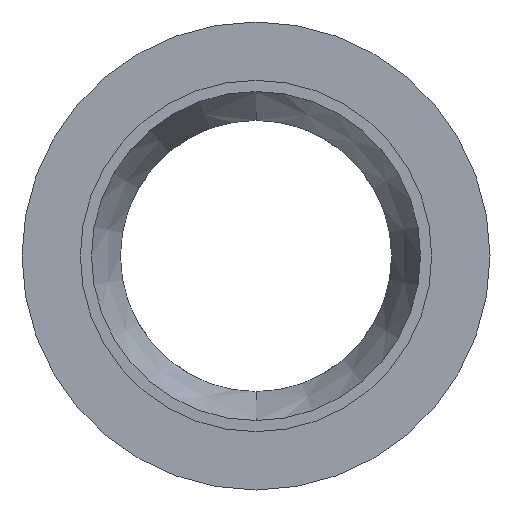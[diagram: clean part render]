
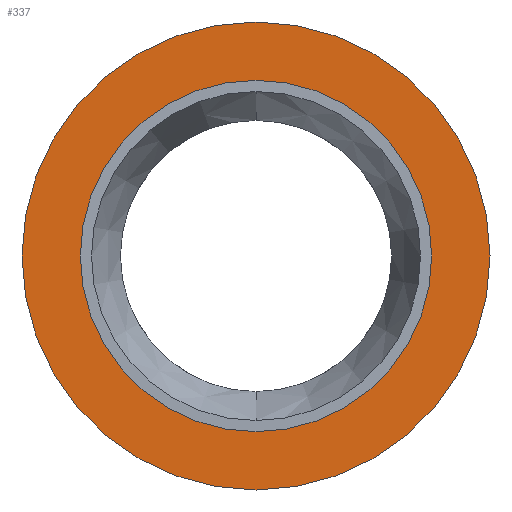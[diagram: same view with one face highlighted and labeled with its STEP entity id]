
A CAD part, front view. The second image highlights one B-rep face of the part: STEP entity #337.
In plain terms, the highlighted planar face has unit normal (0, -1, 0).
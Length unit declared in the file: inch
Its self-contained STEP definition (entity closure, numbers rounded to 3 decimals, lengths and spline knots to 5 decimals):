
#7 = CARTESIAN_POINT ( 'NONE',  ( 0., 0.15, 0. ) ) ;
#8 = DIRECTION ( 'NONE',  ( 0., 1., 0. ) ) ;
#12 = DIRECTION ( 'NONE',  ( 0., 0., 1. ) ) ;
#27 = CARTESIAN_POINT ( 'NONE',  ( 0., 0.15, -0.44 ) ) ;
#36 = EDGE_CURVE ( 'NONE', #331, #262, #42, .T. ) ;
#40 = AXIS2_PLACEMENT_3D ( 'NONE', #313, #108, #208 ) ;
#41 = DIRECTION ( 'NONE',  ( 0., 0., 1. ) ) ;
#42 = CIRCLE ( 'NONE', #109, 0.586 ) ;
#57 = CARTESIAN_POINT ( 'NONE',  ( 0., 0.15, 0.586 ) ) ;
#63 = DIRECTION ( 'NONE',  ( 0., 1., 0. ) ) ;
#65 = AXIS2_PLACEMENT_3D ( 'NONE', #307, #238, #12 ) ;
#87 = AXIS2_PLACEMENT_3D ( 'NONE', #7, #234, #41 ) ;
#100 = DIRECTION ( 'NONE',  ( 0., 0., 1. ) ) ;
#104 = EDGE_CURVE ( 'NONE', #411, #171, #194, .T. ) ;
#105 = CARTESIAN_POINT ( 'NONE',  ( 0., 0.15, -0.586 ) ) ;
#108 = DIRECTION ( 'NONE',  ( 0., 1., 0. ) ) ;
#109 = AXIS2_PLACEMENT_3D ( 'NONE', #309, #8, #236 ) ;
#114 = EDGE_LOOP ( 'NONE', ( #196, #293 ) ) ;
#138 = FACE_BOUND ( 'NONE', #183, .T. ) ;
#145 = CIRCLE ( 'NONE', #40, 0.44 ) ;
#152 = AXIS2_PLACEMENT_3D ( 'NONE', #362, #63, #100 ) ;
#171 = VERTEX_POINT ( 'NONE', #27 ) ;
#183 = EDGE_LOOP ( 'NONE', ( #344, #268 ) ) ;
#194 = CIRCLE ( 'NONE', #152, 0.44 ) ;
#196 = ORIENTED_EDGE ( 'NONE', *, *, #36, .F. ) ;
#205 = FACE_OUTER_BOUND ( 'NONE', #114, .T. ) ;
#208 = DIRECTION ( 'NONE',  ( 0., 0., 1. ) ) ;
#234 = DIRECTION ( 'NONE',  ( 0., 1., 0. ) ) ;
#236 = DIRECTION ( 'NONE',  ( 0., 0., 1. ) ) ;
#238 = DIRECTION ( 'NONE',  ( 0., 1., 0. ) ) ;
#262 = VERTEX_POINT ( 'NONE', #57 ) ;
#268 = ORIENTED_EDGE ( 'NONE', *, *, #104, .T. ) ;
#293 = ORIENTED_EDGE ( 'NONE', *, *, #359, .F. ) ;
#307 = CARTESIAN_POINT ( 'NONE',  ( 0., 0.15, 0. ) ) ;
#309 = CARTESIAN_POINT ( 'NONE',  ( 0., 0.15, 0. ) ) ;
#313 = CARTESIAN_POINT ( 'NONE',  ( 0., 0.15, 0. ) ) ;
#315 = CARTESIAN_POINT ( 'NONE',  ( 0., 0.15, 0.44 ) ) ;
#331 = VERTEX_POINT ( 'NONE', #105 ) ;
#337 = ADVANCED_FACE ( 'NONE', ( #138, #205 ), #375, .F. ) ;
#342 = EDGE_CURVE ( 'NONE', #171, #411, #145, .T. ) ;
#344 = ORIENTED_EDGE ( 'NONE', *, *, #342, .T. ) ;
#359 = EDGE_CURVE ( 'NONE', #262, #331, #395, .T. ) ;
#362 = CARTESIAN_POINT ( 'NONE',  ( 0., 0.15, 0. ) ) ;
#375 = PLANE ( 'NONE',  #65 ) ;
#395 = CIRCLE ( 'NONE', #87, 0.586 ) ;
#411 = VERTEX_POINT ( 'NONE', #315 ) ;
